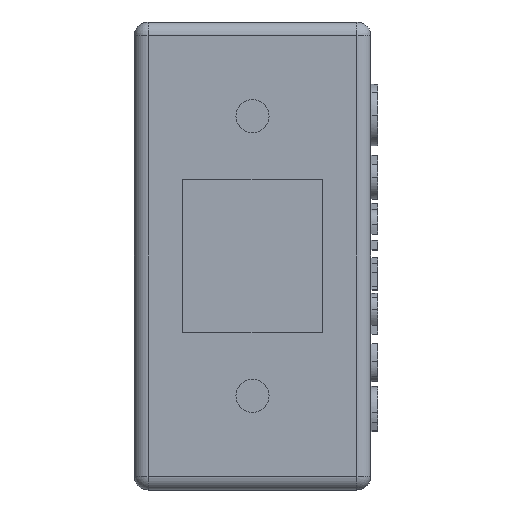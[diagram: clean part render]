
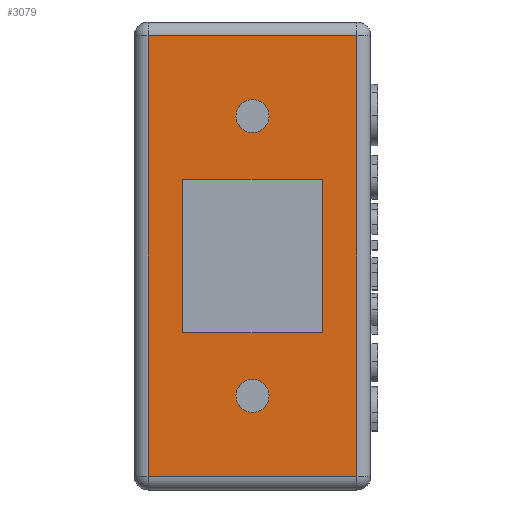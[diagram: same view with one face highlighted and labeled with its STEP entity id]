
A CAD part, front view. The second image highlights one B-rep face of the part: STEP entity #3079.
In plain terms, the highlighted planar face has unit normal (0, -1, 0).
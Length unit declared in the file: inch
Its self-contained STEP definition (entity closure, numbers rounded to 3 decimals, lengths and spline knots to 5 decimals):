
#23=CIRCLE('',#3175,0.01181);
#25=CIRCLE('',#3179,0.01181);
#76=FACE_BOUND('',#496,.T.);
#77=FACE_BOUND('',#497,.T.);
#78=FACE_BOUND('',#498,.T.);
#312=FACE_OUTER_BOUND('',#495,.T.);
#495=EDGE_LOOP('',(#2761,#2762,#2763,#2764));
#496=EDGE_LOOP('',(#2765));
#497=EDGE_LOOP('',(#2766));
#498=EDGE_LOOP('',(#2767,#2768,#2769,#2770));
#881=LINE('',#5633,#1157);
#885=LINE('',#5641,#1161);
#888=LINE('',#5647,#1164);
#891=LINE('',#5652,#1167);
#893=LINE('',#5687,#1169);
#895=LINE('',#5704,#1171);
#899=LINE('',#5717,#1175);
#901=LINE('',#5720,#1177);
#1157=VECTOR('',#3638,0.3937);
#1161=VECTOR('',#3644,0.3937);
#1164=VECTOR('',#3649,0.3937);
#1167=VECTOR('',#3654,0.3937);
#1169=VECTOR('',#3700,0.3937);
#1171=VECTOR('',#3720,0.3937);
#1175=VECTOR('',#3736,0.3937);
#1177=VECTOR('',#3740,0.3937);
#1442=VERTEX_POINT('',#5619);
#1444=VERTEX_POINT('',#5626);
#1445=VERTEX_POINT('',#5631);
#1446=VERTEX_POINT('',#5632);
#1449=VERTEX_POINT('',#5640);
#1451=VERTEX_POINT('',#5646);
#1458=VERTEX_POINT('',#5670);
#1463=VERTEX_POINT('',#5683);
#1467=VERTEX_POINT('',#5696);
#1472=VERTEX_POINT('',#5712);
#1851=EDGE_CURVE('',#1442,#1442,#23,.T.);
#1854=EDGE_CURVE('',#1444,#1444,#25,.T.);
#1855=EDGE_CURVE('',#1445,#1446,#881,.T.);
#1859=EDGE_CURVE('',#1446,#1449,#885,.T.);
#1862=EDGE_CURVE('',#1449,#1451,#888,.T.);
#1865=EDGE_CURVE('',#1451,#1445,#891,.T.);
#1882=EDGE_CURVE('',#1458,#1463,#893,.T.);
#1890=EDGE_CURVE('',#1467,#1458,#895,.T.);
#1897=EDGE_CURVE('',#1463,#1472,#899,.T.);
#1899=EDGE_CURVE('',#1472,#1467,#901,.T.);
#2761=ORIENTED_EDGE('',*,*,#1882,.F.);
#2762=ORIENTED_EDGE('',*,*,#1890,.F.);
#2763=ORIENTED_EDGE('',*,*,#1899,.F.);
#2764=ORIENTED_EDGE('',*,*,#1897,.F.);
#2765=ORIENTED_EDGE('',*,*,#1851,.T.);
#2766=ORIENTED_EDGE('',*,*,#1854,.T.);
#2767=ORIENTED_EDGE('',*,*,#1855,.T.);
#2768=ORIENTED_EDGE('',*,*,#1859,.T.);
#2769=ORIENTED_EDGE('',*,*,#1862,.T.);
#2770=ORIENTED_EDGE('',*,*,#1865,.T.);
#2864=PLANE('',#3231);
#3079=ADVANCED_FACE('',(#312,#76,#77,#78),#2864,.T.);
#3175=AXIS2_PLACEMENT_3D('',#5621,#3623,#3624);
#3179=AXIS2_PLACEMENT_3D('',#5628,#3632,#3633);
#3231=AXIS2_PLACEMENT_3D('',#5740,#3768,#3769);
#3623=DIRECTION('center_axis',(0.,1.,0.));
#3624=DIRECTION('ref_axis',(-1.,0.,0.));
#3632=DIRECTION('center_axis',(0.,1.,0.));
#3633=DIRECTION('ref_axis',(-1.,0.,0.));
#3638=DIRECTION('',(0.,0.,-1.));
#3644=DIRECTION('',(-1.,0.,0.));
#3649=DIRECTION('',(0.,0.,1.));
#3654=DIRECTION('',(1.,0.,0.));
#3700=DIRECTION('',(0.,0.,-1.));
#3720=DIRECTION('',(1.,0.,0.));
#3736=DIRECTION('',(-1.,0.,0.));
#3740=DIRECTION('',(0.,0.,1.));
#3768=DIRECTION('center_axis',(0.,-1.,0.));
#3769=DIRECTION('ref_axis',(0.,0.,-1.));
#5619=CARTESIAN_POINT('',(0.01181,0.,-0.1));
#5621=CARTESIAN_POINT('Origin',(0.,0.,-0.1));
#5626=CARTESIAN_POINT('',(0.01181,0.,0.1));
#5628=CARTESIAN_POINT('Origin',(0.,0.,0.1));
#5631=CARTESIAN_POINT('',(0.05,0.,0.055));
#5632=CARTESIAN_POINT('',(0.05,0.,-0.055));
#5633=CARTESIAN_POINT('',(0.05,0.,-0.0275));
#5640=CARTESIAN_POINT('',(-0.05,0.,-0.055));
#5641=CARTESIAN_POINT('',(-0.025,0.,-0.055));
#5646=CARTESIAN_POINT('',(-0.05,0.,0.055));
#5647=CARTESIAN_POINT('',(-0.05,0.,0.0275));
#5652=CARTESIAN_POINT('',(0.025,0.,0.055));
#5670=CARTESIAN_POINT('',(0.07465,0.,0.15732));
#5683=CARTESIAN_POINT('',(0.07465,0.,-0.15732));
#5687=CARTESIAN_POINT('',(0.07465,0.,0.08366));
#5696=CARTESIAN_POINT('',(-0.07465,0.,0.15732));
#5704=CARTESIAN_POINT('',(-0.04232,0.,0.15732));
#5712=CARTESIAN_POINT('',(-0.07465,0.,-0.15732));
#5717=CARTESIAN_POINT('',(0.04232,0.,-0.15732));
#5720=CARTESIAN_POINT('',(-0.07465,0.,-0.08366));
#5740=CARTESIAN_POINT('Origin',(0.,0.,0.));
